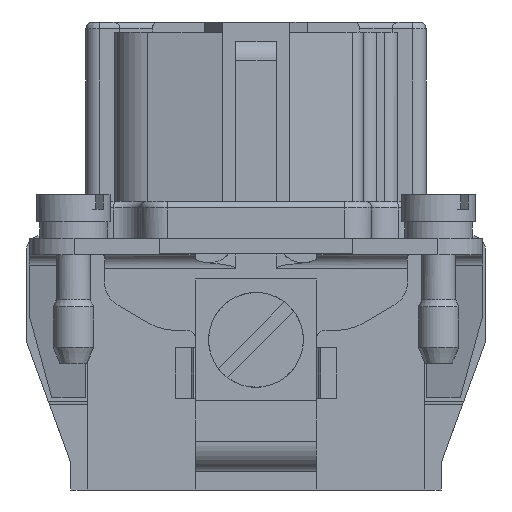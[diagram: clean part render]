
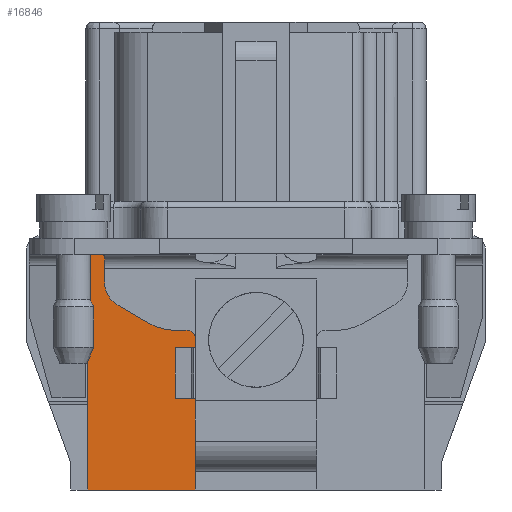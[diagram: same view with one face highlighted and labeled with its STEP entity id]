
A CAD part, left-side view. The second image highlights one B-rep face of the part: STEP entity #16846.
In plain terms, the highlighted planar face has unit normal (-1, 0, 0).
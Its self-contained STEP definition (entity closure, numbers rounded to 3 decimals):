
#16846=ADVANCED_FACE('',(#20896),#19337,.T.);
#19337=PLANE('',#64048);
#20896=FACE_OUTER_BOUND('',#23137,.T.);
#23137=EDGE_LOOP('',(#26516,#26517,#26518,#26519,#26520,#26521,#26522,#26523,
#26524,#26525,#26526,#26527,#26528,#26529,#26530));
#26516=ORIENTED_EDGE('',*,*,#43847,.F.);
#26517=ORIENTED_EDGE('',*,*,#43848,.F.);
#26518=ORIENTED_EDGE('',*,*,#43849,.T.);
#26519=ORIENTED_EDGE('',*,*,#43850,.F.);
#26520=ORIENTED_EDGE('',*,*,#43851,.F.);
#26521=ORIENTED_EDGE('',*,*,#43852,.T.);
#26522=ORIENTED_EDGE('',*,*,#43853,.T.);
#26523=ORIENTED_EDGE('',*,*,#43854,.T.);
#26524=ORIENTED_EDGE('',*,*,#43855,.F.);
#26525=ORIENTED_EDGE('',*,*,#43856,.T.);
#26526=ORIENTED_EDGE('',*,*,#43857,.F.);
#26527=ORIENTED_EDGE('',*,*,#43858,.F.);
#26528=ORIENTED_EDGE('',*,*,#43859,.F.);
#26529=ORIENTED_EDGE('',*,*,#43860,.F.);
#26530=ORIENTED_EDGE('',*,*,#43861,.F.);
#39414=VERTEX_POINT('',#78965);
#39415=VERTEX_POINT('',#78966);
#39416=VERTEX_POINT('',#78968);
#39417=VERTEX_POINT('',#78970);
#39418=VERTEX_POINT('',#78972);
#39419=VERTEX_POINT('',#78974);
#39420=VERTEX_POINT('',#78976);
#39421=VERTEX_POINT('',#78978);
#39422=VERTEX_POINT('',#78980);
#39423=VERTEX_POINT('',#78982);
#39424=VERTEX_POINT('',#78984);
#39425=VERTEX_POINT('',#78986);
#39426=VERTEX_POINT('',#78988);
#39427=VERTEX_POINT('',#78990);
#39428=VERTEX_POINT('',#78992);
#43847=EDGE_CURVE('',#39414,#39415,#52884,.T.);
#43848=EDGE_CURVE('',#39416,#39414,#52885,.T.);
#43849=EDGE_CURVE('',#39416,#39417,#52886,.T.);
#43850=EDGE_CURVE('',#39418,#39417,#52887,.T.);
#43851=EDGE_CURVE('',#39419,#39418,#52888,.T.);
#43852=EDGE_CURVE('',#39419,#39420,#52889,.T.);
#43853=EDGE_CURVE('',#39420,#39421,#52890,.T.);
#43854=EDGE_CURVE('',#39421,#39422,#52891,.T.);
#43855=EDGE_CURVE('',#39423,#39422,#52892,.T.);
#43856=EDGE_CURVE('',#39423,#39424,#50082,.T.);
#43857=EDGE_CURVE('',#39425,#39424,#52893,.T.);
#43858=EDGE_CURVE('',#39426,#39425,#50083,.T.);
#43859=EDGE_CURVE('',#39427,#39426,#52894,.T.);
#43860=EDGE_CURVE('',#39428,#39427,#50084,.T.);
#43861=EDGE_CURVE('',#39415,#39428,#52895,.T.);
#50082=CIRCLE('',#64045,0.6);
#50083=CIRCLE('',#64046,4.);
#50084=CIRCLE('',#64047,2.);
#52884=LINE('',#78964,#57112);
#52885=LINE('',#78967,#57113);
#52886=LINE('',#78969,#57114);
#52887=LINE('',#78971,#57115);
#52888=LINE('',#78973,#57116);
#52889=LINE('',#78975,#57117);
#52890=LINE('',#78977,#57118);
#52891=LINE('',#78979,#57119);
#52892=LINE('',#78981,#57120);
#52893=LINE('',#78985,#57121);
#52894=LINE('',#78989,#57122);
#52895=LINE('',#78993,#57123);
#57112=VECTOR('',#67963,1.);
#57113=VECTOR('',#67964,1.);
#57114=VECTOR('',#67965,1.);
#57115=VECTOR('',#67966,1.);
#57116=VECTOR('',#67967,1.);
#57117=VECTOR('',#67968,1.);
#57118=VECTOR('',#67969,1.);
#57119=VECTOR('',#67970,1.);
#57120=VECTOR('',#67971,1.);
#57121=VECTOR('',#67974,1.);
#57122=VECTOR('',#67977,1.);
#57123=VECTOR('',#67980,1.);
#64045=AXIS2_PLACEMENT_3D('',#78983,#67972,#67973);
#64046=AXIS2_PLACEMENT_3D('',#78987,#67975,#67976);
#64047=AXIS2_PLACEMENT_3D('',#78991,#67978,#67979);
#64048=AXIS2_PLACEMENT_3D('',#78994,#67981,#67982);
#67963=DIRECTION('',(0.,1.,0.));
#67964=DIRECTION('',(0.,0.,-1.));
#67965=DIRECTION('',(0.,1.,0.));
#67966=DIRECTION('',(0.,0.,-1.));
#67967=DIRECTION('',(0.,-1.,0.));
#67968=DIRECTION('',(0.,0.,-1.));
#67969=DIRECTION('',(0.,-1.,0.));
#67970=DIRECTION('',(0.,0.,1.));
#67971=DIRECTION('',(0.,0.,-1.));
#67972=DIRECTION('',(-1.,0.,0.));
#67973=DIRECTION('',(0.,0.,1.));
#67974=DIRECTION('',(0.,-1.,0.));
#67975=DIRECTION('',(-1.,0.,0.));
#67976=DIRECTION('',(0.,0.,1.));
#67977=DIRECTION('',(0.,-0.866,-0.5));
#67978=DIRECTION('',(-1.,0.,0.));
#67979=DIRECTION('',(0.,0.,1.));
#67980=DIRECTION('',(0.,0.,-1.));
#67981=DIRECTION('',(-1.,0.,0.));
#67982=DIRECTION('',(0.,0.,-1.));
#78964=CARTESIAN_POINT('',(-44.875,-11.536,-0.852));
#78965=CARTESIAN_POINT('',(-44.875,4.5,-0.852));
#78966=CARTESIAN_POINT('',(-44.875,11.2,-0.852));
#78967=CARTESIAN_POINT('',(-44.875,4.5,-17.4));
#78968=CARTESIAN_POINT('',(-44.875,4.5,0.05));
#78969=CARTESIAN_POINT('',(-44.875,-12.45,0.05));
#78970=CARTESIAN_POINT('',(-44.875,4.525,0.05));
#78971=CARTESIAN_POINT('',(-44.875,4.525,0.05));
#78972=CARTESIAN_POINT('',(-44.875,4.525,1.2));
#78973=CARTESIAN_POINT('',(-44.875,0.,1.2));
#78974=CARTESIAN_POINT('',(-44.875,12.45,1.2));
#78975=CARTESIAN_POINT('',(-44.875,12.45,-17.4));
#78976=CARTESIAN_POINT('',(-44.875,12.45,-17.4));
#78977=CARTESIAN_POINT('',(-44.875,-12.45,-17.4));
#78978=CARTESIAN_POINT('',(-44.875,4.5,-17.4));
#78979=CARTESIAN_POINT('',(-44.875,4.5,-2.));
#78980=CARTESIAN_POINT('',(-44.875,4.5,-15.859));
#78981=CARTESIAN_POINT('',(-44.875,4.5,-17.4));
#78982=CARTESIAN_POINT('',(-44.875,4.5,-6.2));
#78983=CARTESIAN_POINT('',(-44.875,5.1,-6.2));
#78984=CARTESIAN_POINT('',(-44.875,5.1,-5.6));
#78985=CARTESIAN_POINT('',(-44.875,-12.45,-5.6));
#78986=CARTESIAN_POINT('',(-44.875,5.928,-5.6));
#78987=CARTESIAN_POINT('',(-44.875,5.928,-1.6));
#78988=CARTESIAN_POINT('',(-44.875,7.928,-5.064));
#78989=CARTESIAN_POINT('',(-44.875,-12.697,-16.972));
#78990=CARTESIAN_POINT('',(-44.875,10.2,-3.752));
#78991=CARTESIAN_POINT('',(-44.875,9.2,-2.02));
#78992=CARTESIAN_POINT('',(-44.875,11.2,-2.02));
#78993=CARTESIAN_POINT('',(-44.875,11.2,-17.4));
#78994=CARTESIAN_POINT('',(-44.875,-12.45,-17.4));
